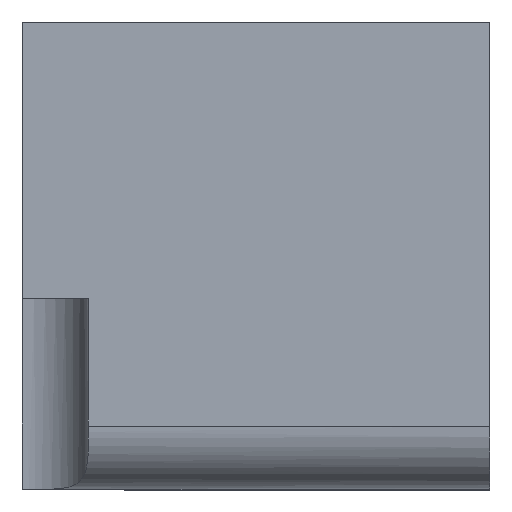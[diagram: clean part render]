
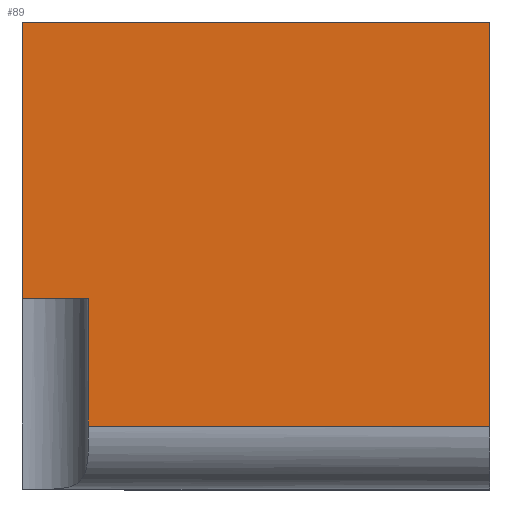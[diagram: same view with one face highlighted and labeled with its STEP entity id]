
A CAD part, top view. The second image highlights one B-rep face of the part: STEP entity #89.
In plain terms, the highlighted planar face has unit normal (0, 0, 1).
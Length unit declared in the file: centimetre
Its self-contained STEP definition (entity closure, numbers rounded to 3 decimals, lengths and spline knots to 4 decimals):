
#14 = DIRECTION ( 'NONE',  ( 1., 0., 0. ) ) ;
#18 = LINE ( 'NONE', #223, #537 ) ;
#32 = VECTOR ( 'NONE', #232, 100. ) ;
#53 = LINE ( 'NONE', #336, #675 ) ;
#71 = CARTESIAN_POINT ( 'NONE',  ( 1000., 1000., 1000. ) ) ;
#89 = ADVANCED_FACE ( 'NONE', ( #387 ), #876, .T. ) ;
#91 = DIRECTION ( 'NONE',  ( 1., 0., 0. ) ) ;
#118 = LINE ( 'NONE', #379, #148 ) ;
#135 = DIRECTION ( 'NONE',  ( 1., 0., 0. ) ) ;
#141 = VERTEX_POINT ( 'NONE', #786 ) ;
#144 = VERTEX_POINT ( 'NONE', #154 ) ;
#148 = VECTOR ( 'NONE', #747, 100. ) ;
#154 = CARTESIAN_POINT ( 'NONE',  ( 141.3713, 135.1844, 1000. ) ) ;
#162 = CARTESIAN_POINT ( 'NONE',  ( 1000., 135.1844, 1000. ) ) ;
#168 = EDGE_CURVE ( 'NONE', #144, #624, #118, .T. ) ;
#205 = ORIENTED_EDGE ( 'NONE', *, *, #449, .T. ) ;
#209 = CARTESIAN_POINT ( 'NONE',  ( 1000., 135.1844, 1000. ) ) ;
#223 = CARTESIAN_POINT ( 'NONE',  ( 0., 408.5459, 1000. ) ) ;
#225 = LINE ( 'NONE', #504, #32 ) ;
#232 = DIRECTION ( 'NONE',  ( 0., -1., 0. ) ) ;
#241 = CARTESIAN_POINT ( 'NONE',  ( 0., 0., 1000. ) ) ;
#304 = VERTEX_POINT ( 'NONE', #435 ) ;
#305 = CARTESIAN_POINT ( 'NONE',  ( 1000., 1000., 1000. ) ) ;
#319 = ORIENTED_EDGE ( 'NONE', *, *, #670, .T. ) ;
#326 = EDGE_CURVE ( 'NONE', #141, #304, #225, .T. ) ;
#336 = CARTESIAN_POINT ( 'NONE',  ( 0., 1000., 1000. ) ) ;
#379 = CARTESIAN_POINT ( 'NONE',  ( 141.3713, 408.5459, 1000. ) ) ;
#387 = FACE_OUTER_BOUND ( 'NONE', #510, .T. ) ;
#426 = EDGE_CURVE ( 'NONE', #144, #625, #558, .T. ) ;
#435 = CARTESIAN_POINT ( 'NONE',  ( 0., 408.5459, 1000. ) ) ;
#449 = EDGE_CURVE ( 'NONE', #644, #141, #53, .T. ) ;
#504 = CARTESIAN_POINT ( 'NONE',  ( 0., 1000., 1000. ) ) ;
#510 = EDGE_LOOP ( 'NONE', ( #900, #534, #319, #205, #596, #532 ) ) ;
#532 = ORIENTED_EDGE ( 'NONE', *, *, #666, .T. ) ;
#534 = ORIENTED_EDGE ( 'NONE', *, *, #426, .T. ) ;
#537 = VECTOR ( 'NONE', #14, 100. ) ;
#558 = LINE ( 'NONE', #209, #890 ) ;
#569 = DIRECTION ( 'NONE',  ( 0., 0., 1. ) ) ;
#596 = ORIENTED_EDGE ( 'NONE', *, *, #326, .T. ) ;
#624 = VERTEX_POINT ( 'NONE', #656 ) ;
#625 = VERTEX_POINT ( 'NONE', #162 ) ;
#644 = VERTEX_POINT ( 'NONE', #305 ) ;
#656 = CARTESIAN_POINT ( 'NONE',  ( 141.3713, 408.5459, 1000. ) ) ;
#666 = EDGE_CURVE ( 'NONE', #304, #624, #18, .T. ) ;
#670 = EDGE_CURVE ( 'NONE', #625, #644, #858, .T. ) ;
#675 = VECTOR ( 'NONE', #686, 100. ) ;
#686 = DIRECTION ( 'NONE',  ( -1., 0., 0. ) ) ;
#701 = VECTOR ( 'NONE', #788, 100. ) ;
#708 = AXIS2_PLACEMENT_3D ( 'NONE', #241, #569, #91 ) ;
#747 = DIRECTION ( 'NONE',  ( 0., 1., 0. ) ) ;
#786 = CARTESIAN_POINT ( 'NONE',  ( 0., 1000., 1000. ) ) ;
#788 = DIRECTION ( 'NONE',  ( 0., 1., 0. ) ) ;
#858 = LINE ( 'NONE', #71, #701 ) ;
#876 = PLANE ( 'NONE',  #708 ) ;
#890 = VECTOR ( 'NONE', #135, 100. ) ;
#900 = ORIENTED_EDGE ( 'NONE', *, *, #168, .F. ) ;
